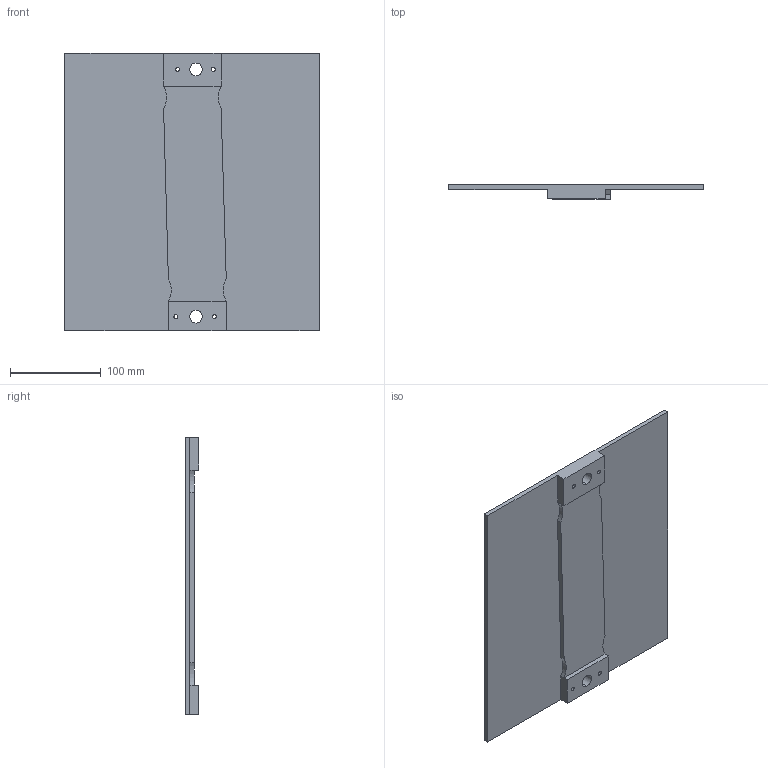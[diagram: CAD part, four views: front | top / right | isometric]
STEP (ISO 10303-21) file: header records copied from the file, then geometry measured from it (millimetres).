
FILE_DESCRIPTION(/* description */ ('STEP AP242 Edition 2','CAx-IF Rec.Pracs.---Representation and Presentation of Product Manufacturing Information (PMI)---4.0---2014-10-13','CAx-IF Rec.Pracs.---3D Tessellated Geometry---0.4---2014-09-14','2;1','CAx-IF Rec.Pracs.---User Defined Attributes---1.5---2016-08-15'),/* implementation_level */ '2;1');
FILE_NAME(/* name */ 'Assembly 1 - Part 13',/* time_stamp */ '2026-10-08T06:00:14Z',/* author */ (''),/* organization */ (''),/* preprocessor_version */ 'ST-DEVELOPER v20',/* originating_system */ 'ONSHAPE BY PTC INC, 1.221',/* authorisation */ ' ');
FILE_SCHEMA (('AP242_MANAGED_MODEL_BASED_3D_ENGINEERING_MIM_LF { 1 0 10303 442 3 1 4 }'));
Length unit declared in the file: metre
Products named in the file (1): Part 13
Bounding box: 280 x 15 x 305 mm (x, y, z)
Volume: 538796.2 mm3; surface area: 183713.6 mm2
Topology: 1 solids, 1 shells, 34 faces, 104 edges, 72 vertices
Faces by surface type: bspline 34
Entity records: 1266 total; most frequent: CARTESIAN_POINT 389, ORIENTED_EDGE 208, DIRECTION 138, EDGE_CURVE 104, VERTEX_POINT 72, LINE 48, VECTOR 48, EDGE_LOOP 46
